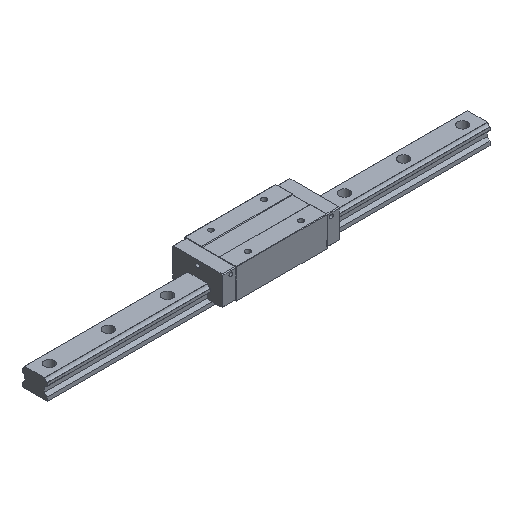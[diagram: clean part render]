
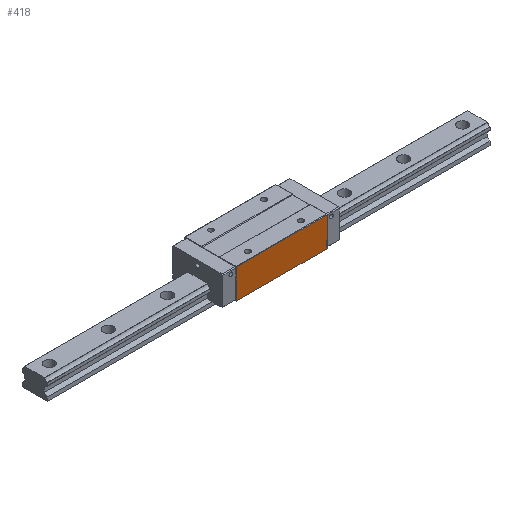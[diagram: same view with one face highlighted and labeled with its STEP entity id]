
A CAD part, isometric view. The second image highlights one B-rep face of the part: STEP entity #418.
In plain terms, the highlighted planar face has unit normal (0, -1, 0).
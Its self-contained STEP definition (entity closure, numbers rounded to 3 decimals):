
#61 = EDGE_CURVE ( 'NONE', #1987, #1628, #2000, .T. ) ;
#92 = CARTESIAN_POINT ( 'NONE',  ( 61.5, -35., 48. ) ) ;
#179 = CARTESIAN_POINT ( 'NONE',  ( -61.5, -35., 48. ) ) ;
#392 = VERTEX_POINT ( 'NONE', #1134 ) ;
#418 = ADVANCED_FACE ( 'NONE', ( #1538 ), #1983, .F. ) ;
#468 = CARTESIAN_POINT ( 'NONE',  ( 61.5, -35., 47.5 ) ) ;
#738 = LINE ( 'NONE', #5560, #3288 ) ;
#1134 = CARTESIAN_POINT ( 'NONE',  ( -61.5, -35., 47.5 ) ) ;
#1171 = CARTESIAN_POINT ( 'NONE',  ( 61.5, -35., 7.5 ) ) ;
#1189 = DIRECTION ( 'NONE',  ( -1., 0., 0. ) ) ;
#1215 = VECTOR ( 'NONE', #2682, 1000. ) ;
#1300 = CARTESIAN_POINT ( 'NONE',  ( -61.5, -35., 7.5 ) ) ;
#1538 = FACE_OUTER_BOUND ( 'NONE', #2224, .T. ) ;
#1556 = VERTEX_POINT ( 'NONE', #468 ) ;
#1628 = VERTEX_POINT ( 'NONE', #1300 ) ;
#1730 = LINE ( 'NONE', #92, #4946 ) ;
#1761 = DIRECTION ( 'NONE',  ( 0., 0., -1. ) ) ;
#1824 = ORIENTED_EDGE ( 'NONE', *, *, #5071, .T. ) ;
#1975 = ORIENTED_EDGE ( 'NONE', *, *, #4421, .T. ) ;
#1983 = PLANE ( 'NONE',  #4960 ) ;
#1987 = VERTEX_POINT ( 'NONE', #1171 ) ;
#2000 = LINE ( 'NONE', #3736, #4504 ) ;
#2224 = EDGE_LOOP ( 'NONE', ( #2996, #1975, #1824, #4322 ) ) ;
#2379 = CARTESIAN_POINT ( 'NONE',  ( 61.5, -35., 48. ) ) ;
#2514 = EDGE_CURVE ( 'NONE', #1556, #1987, #1730, .T. ) ;
#2682 = DIRECTION ( 'NONE',  ( 0., 0., -1. ) ) ;
#2996 = ORIENTED_EDGE ( 'NONE', *, *, #2514, .F. ) ;
#3288 = VECTOR ( 'NONE', #4753, 1000. ) ;
#3661 = LINE ( 'NONE', #179, #1215 ) ;
#3736 = CARTESIAN_POINT ( 'NONE',  ( 61.5, -35., 7.5 ) ) ;
#4084 = DIRECTION ( 'NONE',  ( 1., 0., 0. ) ) ;
#4322 = ORIENTED_EDGE ( 'NONE', *, *, #61, .F. ) ;
#4421 = EDGE_CURVE ( 'NONE', #1556, #392, #738, .T. ) ;
#4504 = VECTOR ( 'NONE', #1189, 1000. ) ;
#4753 = DIRECTION ( 'NONE',  ( -1., 0., 0. ) ) ;
#4946 = VECTOR ( 'NONE', #1761, 1000. ) ;
#4960 = AXIS2_PLACEMENT_3D ( 'NONE', #2379, #5081, #4084 ) ;
#5071 = EDGE_CURVE ( 'NONE', #392, #1628, #3661, .T. ) ;
#5081 = DIRECTION ( 'NONE',  ( 0., 1., 0. ) ) ;
#5560 = CARTESIAN_POINT ( 'NONE',  ( 61.5, -35., 47.5 ) ) ;
